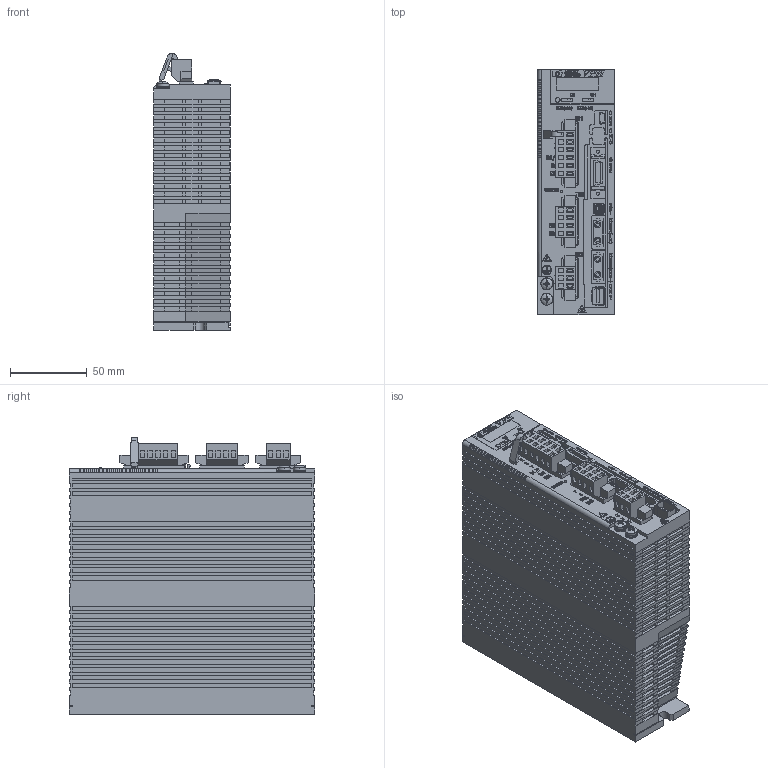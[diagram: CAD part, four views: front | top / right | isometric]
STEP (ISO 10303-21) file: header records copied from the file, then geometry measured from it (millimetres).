
FILE_DESCRIPTION (( 'STEP AP214' ), '1' );
FILE_NAME ('NCR-HB_Serise(051-401)#SE-73901A.STEP', '2020-03-13T07:19:24', ( '' ), ( '' ), 'SwSTEP 2.0', 'SolidWorks 2018', '' );
FILE_SCHEMA (( 'AUTOMOTIVE_DESIGN' ));
Length unit declared in the file: millimetre
Products named in the file (1): NCR-HB_Serise(051-401)#SE-73901A
Bounding box: 50 x 160 x 180.47 mm (x, y, z)
Volume: 1232951.5 mm3; surface area: 128988.5 mm2
Topology: 5 solids, 5 shells, 5503 faces, 15390 edges, 10231 vertices
Faces by surface type: plane 4381, bspline 711, cylinder 367, cone 32, torus 8, sphere 4
Entity records: 204307 total; most frequent: CARTESIAN_POINT 67865, ORIENTED_EDGE 30772, DIRECTION 23688, EDGE_CURVE 15386, LINE 12558, VECTOR 12558, VERTEX_POINT 10231, EDGE_LOOP 5883
